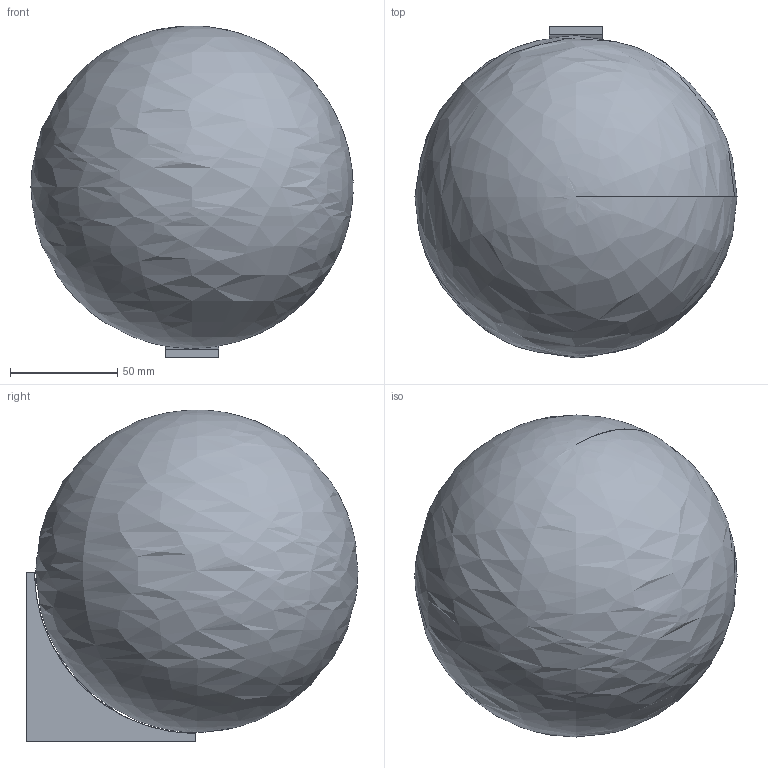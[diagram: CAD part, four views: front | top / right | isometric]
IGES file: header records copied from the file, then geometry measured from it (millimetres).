
Bounding box: 149.95 x 154.54 x 154.54 mm (x, y, z)
Surface area: 81461.8 mm2 (no closed solid volume)
Topology: 0 solids, 0 shells, 9 faces, 56 edges, 52 vertices
Faces by surface type: bspline 9
